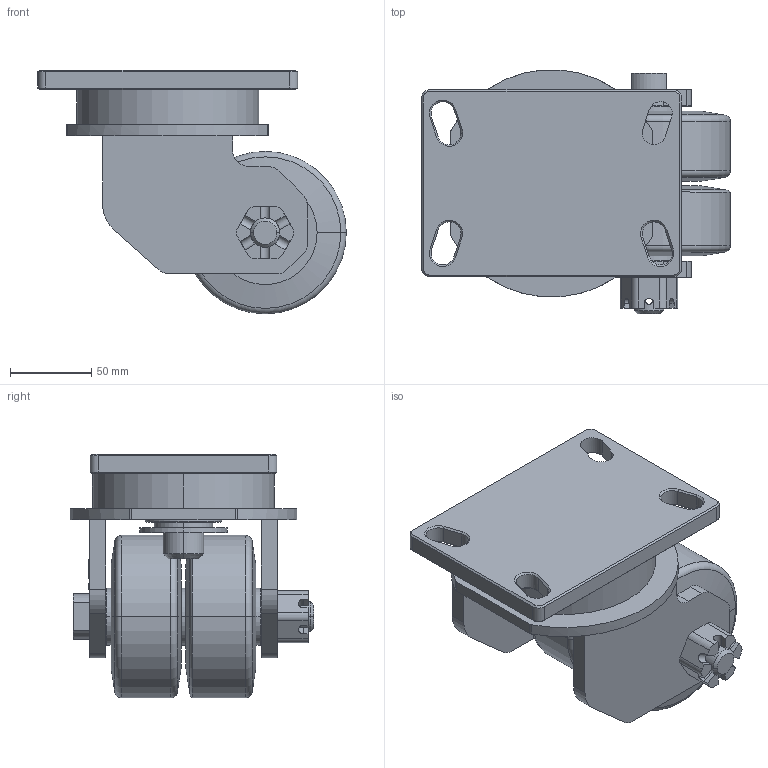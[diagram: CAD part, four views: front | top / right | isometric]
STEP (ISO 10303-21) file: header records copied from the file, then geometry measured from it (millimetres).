
FILE_DESCRIPTION(/* description */ (''),/* implementation_level */ '2;1');
FILE_NAME(/* name */ '40B29_4_F.stp',/* time_stamp */ '2022-08-29T11:05:08+08:00',/* author */ (''),/* organization */ (''),/* preprocessor_version */ 'ST-DEVELOPER v14',/* originating_system */ 'SIEMENS PLM Software NX 8.0',/* authorisation */ '');
FILE_SCHEMA (('AUTOMOTIVE_DESIGN { 1 0 10303 214 3 1 1 1 }'));
Length unit declared in the file: millimetre
Products named in the file (1): 40B29_4_F
Bounding box: 190 x 150.01 x 150 mm (x, y, z)
Volume: 1387045.2 mm3; surface area: 176727.7 mm2
Topology: 1 solids, 2 shells, 428 faces, 1153 edges, 760 vertices
Faces by surface type: plane 271, cylinder 113, cone 34, torus 10
Entity records: 13992 total; most frequent: CARTESIAN_POINT 3380, ORIENTED_EDGE 2306, DIRECTION 2083, EDGE_CURVE 1153, VERTEX_POINT 760, AXIS2_PLACEMENT_3D 758, LINE 567, VECTOR 567
